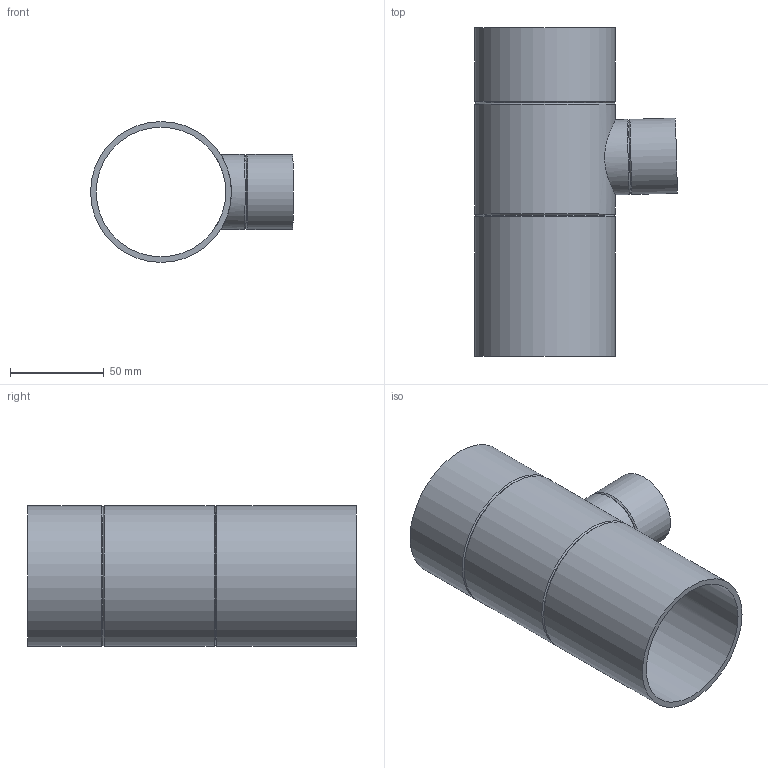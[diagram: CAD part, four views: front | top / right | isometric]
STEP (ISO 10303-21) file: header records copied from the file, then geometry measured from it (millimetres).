
FILE_DESCRIPTION(/* description */ (''),/* implementation_level */ '2;1');
FILE_NAME(/* name */ 'Z:\Geberit\Export\NewStep\365159.stp',/* time_stamp */ '2014-04-02T07:33:42+02:00',/* author */ ('nelson'),/* organization */ (''),/* preprocessor_version */ 'ST-DEVELOPER v15.2',/* originating_system */ 'Autodesk Inventor 2014',/* authorisation */ '');
FILE_SCHEMA (('AUTOMOTIVE_DESIGN { 1 0 10303 214 3 1 1 }'));
Length unit declared in the file: millimetre
Products named in the file (1): 365159
Bounding box: 108 x 175 x 75 mm (x, y, z)
Volume: 127735.9 mm3; surface area: 87452.2 mm2
Topology: 1 solids, 1 shells, 16 faces, 37 edges, 23 vertices
Faces by surface type: cylinder 7, cone 6, plane 3
Full cylindrical faces by diameter (mm): 34 x1, 40 x2, 69 x1, 75 x3
Entity records: 499 total; most frequent: CARTESIAN_POINT 177, DIRECTION 64, EDGE_LOOP 34, ORIENTED_EDGE 34, AXIS2_PLACEMENT_3D 32, FACE_BOUND 22, VERTEX_POINT 17, EDGE_CURVE 17
